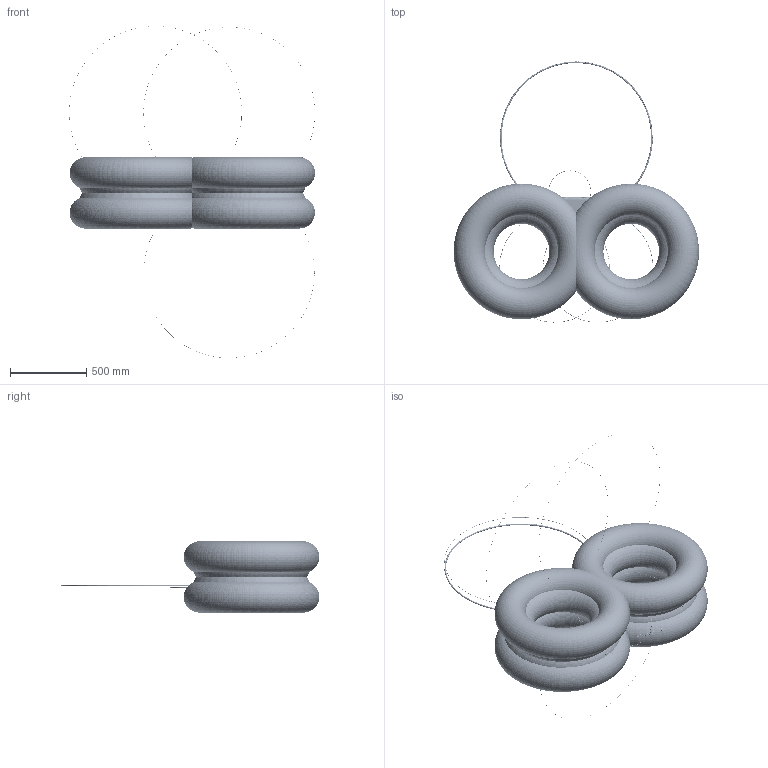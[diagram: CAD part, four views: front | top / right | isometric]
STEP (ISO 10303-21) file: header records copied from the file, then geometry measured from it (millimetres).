
FILE_DESCRIPTION((''),'2;1');
FILE_NAME('TW_ASM','2016-12-08T',('user'),(''),'PRO/ENGINEER BY PARAMETRIC TECHNOLOGY CORPORATION, 2008090','PRO/ENGINEER BY PARAMETRIC TECHNOLOGY CORPORATION, 2008090','');
FILE_SCHEMA(('CONFIG_CONTROL_DESIGN'));
Products named in the file (1): TW_ASM
Bounding box: 1608.95 x 1708.2 x 2171.87 mm (x, y, z)
Surface area: 238431117.9 mm2 (no closed solid volume)
Topology: 0 solids, 0 shells, 8222 faces, 44783 edges, 44293 vertices
Faces by surface type: bspline 7616, torus 542, sphere 64
Entity records: 778390 total; most frequent: CARTESIAN_POINT 312140, DIRECTION 75749, TRIMMED_CURVE 68754, VECTOR 62971, LINE 62971, DEFINITIONAL_REPRESENTATION 43815, PCURVE 43815, COMPOSITE_CURVE_SEGMENT 43815
